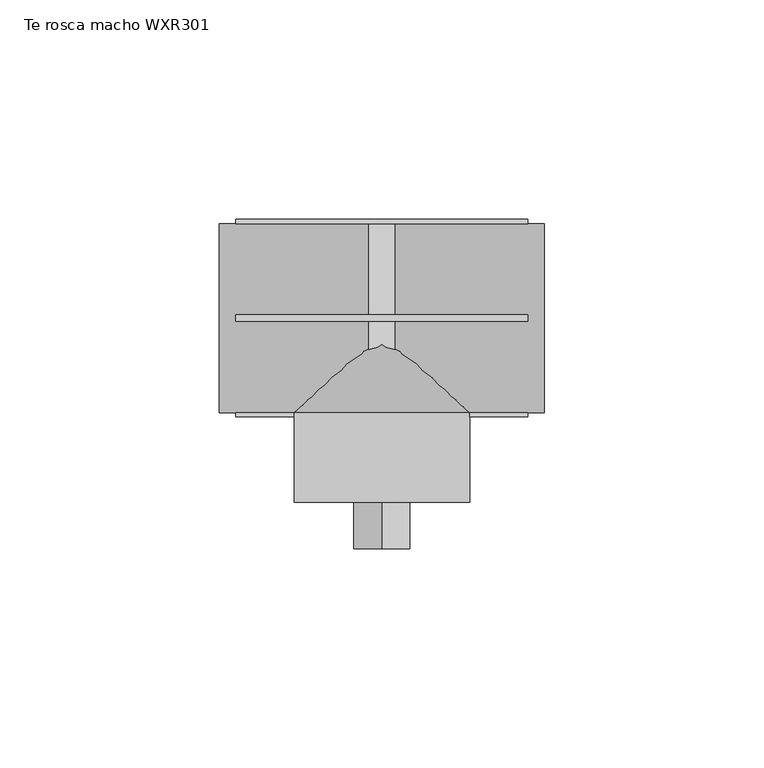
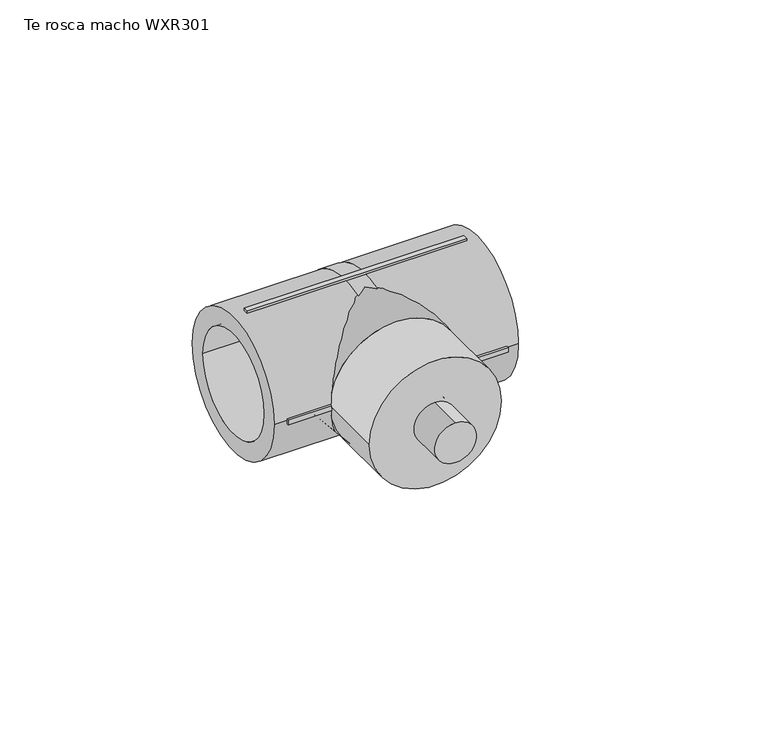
"""IFC4 building model written with IfcOpenShell, lengths in millimetres: pipe fitting geometry, EGB_VASEN_ PPR_Te rosca macho WXR301 : Te rosca macho WXR301."""

from ifc_helpers import new_model, si_unit, point, frame, origin, origin_2d, place, context, project, spatial, polyline, circle_curve, trimmed, segment, composite_curve, outline, extrude, source, transform, mapped, element, save
from ifc_brep_helpers import plane_surface, cylinder_surface, revolved_surface, advanced_brep


def te_rosca_macho_wxr301_1d7b4b41(model_context):
    return source(origin(), model_context, "Body", "SolidModel", [
        extrude(outline(composite_curve([segment(trimmed(circle_curve(origin_2d(), 6.35), [point((-6.35, 0.0))], [point((6.35, 0.0))], False, "CARTESIAN"), True, "CONTINUOUS"), segment(trimmed(circle_curve(origin_2d(), 6.35), [point((6.35, 0.0))], [point((-6.35, 0.0))], False, "CARTESIAN"), True, "CONTINUOUS")], self_intersect=False)), frame((0.0, -52.5, 0.0), z_axis=(0.0, 1.0, 0.0), x_axis=(0.0, 0.0, 1.0)), (0.0, 0.0, 1.0), 30.0),
        advanced_brep(
        [(2.96, -16.0, 0.0), (2.96, 16.0, 0.0), (-2.96, 16.0, 0.0), (-2.96, -16.0, 0.0), (-2.96, 21.5, 0.0), (2.96, 21.5, 0.0), (2.96, -21.5, 0.0), (-2.96, -21.5, 0.0), (37.0, -21.5, 0.0), (37.0, 21.5, 0.0), (37.0, -16.0, 0.0), (37.0, 16.0, 0.0), (-37.0, -21.5, 0.0), (-37.0, 21.5, 0.0), (-37.0, -16.0, 0.0), (-37.0, 16.0, 0.0)],
        [
            (0, 1, circle_curve(frame((2.96, 0.0, 0.0), z_axis=(1.0, 0.0, 0.0), x_axis=(0.0, 1.0, 0.0)), 16.0)),
            (1, 0, circle_curve(frame((2.96, 0.0, 0.0), z_axis=(1.0, 0.0, 0.0), x_axis=(0.0, 1.0, 0.0)), 16.0)),
            (2, 3, circle_curve(frame((-2.96, 0.0, 0.0), z_axis=(-1.0, 0.0, 0.0), x_axis=(0.0, 1.0, 0.0)), 16.0)),
            (3, 2, circle_curve(frame((-2.96, 0.0, 0.0), z_axis=(-1.0, 0.0, 0.0), x_axis=(0.0, 1.0, 0.0)), 16.0)),
            (4, 5),
            (5, 6, circle_curve(frame((2.96, 0.0, 0.0), z_axis=(-1.0, 0.0, 0.0), x_axis=(0.0, 0.0, -1.0)), 21.5)),
            (6, 7),
            (7, 4, circle_curve(frame((-2.96, 0.0, 0.0), z_axis=(1.0, 0.0, 0.0), x_axis=(0.0, 0.0, -1.0)), 21.5)),
            (4, 7, circle_curve(frame((-2.96, 0.0, 0.0), z_axis=(1.0, 0.0, 0.0), x_axis=(0.0, 0.0, 1.0)), 21.5)),
            (6, 5, circle_curve(frame((2.96, 0.0, 0.0), z_axis=(-1.0, 0.0, 0.0), x_axis=(0.0, 0.0, 1.0)), 21.5)),
            (8, 9, circle_curve(frame((37.0, 0.0, 0.0), z_axis=(1.0, 0.0, 0.0), x_axis=(0.0, 1.0, 0.0)), 21.5)),
            (9, 8, circle_curve(frame((37.0, 0.0, 0.0), z_axis=(1.0, 0.0, 0.0), x_axis=(0.0, 1.0, 0.0)), 21.5)),
            (10, 11, circle_curve(frame((37.0, 0.0, 0.0), z_axis=(-1.0, 0.0, 0.0), x_axis=(0.0, 1.0, 0.0)), 16.0)),
            (11, 10, circle_curve(frame((37.0, 0.0, 0.0), z_axis=(-1.0, 0.0, 0.0), x_axis=(0.0, 1.0, 0.0)), 16.0)),
            (9, 5),
            (6, 8),
            (11, 1),
            (0, 10),
            (12, 13, circle_curve(frame((-37.0, 0.0, 0.0), z_axis=(-1.0, 0.0, 0.0), x_axis=(0.0, 1.0, 0.0)), 21.5)),
            (13, 12, circle_curve(frame((-37.0, 0.0, 0.0), z_axis=(-1.0, 0.0, 0.0), x_axis=(0.0, 1.0, 0.0)), 21.5)),
            (14, 15, circle_curve(frame((-37.0, 0.0, 0.0), z_axis=(1.0, 0.0, 0.0), x_axis=(0.0, 1.0, 0.0)), 16.0)),
            (15, 14, circle_curve(frame((-37.0, 0.0, 0.0), z_axis=(1.0, 0.0, 0.0), x_axis=(0.0, 1.0, 0.0)), 16.0)),
            (12, 7),
            (4, 13),
            (14, 3),
            (2, 15),
        ],
        [
            plane_surface(frame((2.96, 0.0, 0.0), z_axis=(1.0, 0.0, 0.0), x_axis=(0.0, 0.0, -1.0))),
            plane_surface(frame((-2.96, 0.0, 0.0), z_axis=(-1.0, 0.0, 0.0), x_axis=(0.0, 0.0, -1.0))),
            cylinder_surface(frame((-2.96, 0.0, 0.0), z_axis=(1.0, 0.0, 0.0), x_axis=(0.0, 0.0, -1.0)), 21.5),
            cylinder_surface(frame((-2.96, 0.0, 0.0), z_axis=(1.0, 0.0, 0.0), x_axis=(0.0, 0.0, 1.0)), 21.5),
            plane_surface(frame((37.0, 0.0, 0.0), z_axis=(1.0, 0.0, 0.0), x_axis=(0.0, 0.0, 1.0))),
            cylinder_surface(frame((2.96, 0.0, 0.0), z_axis=(-1.0, 0.0, 0.0), x_axis=(0.0, 1.0, 0.0)), 21.5),
            revolved_surface(polyline([(37.0, 16.0, 0.0), (2.96, 16.0, 0.0)]), (2.96, 0.0, 0.0), (1.0, 0.0, 0.0)),
            plane_surface(frame((-37.0, 0.0, 0.0), z_axis=(-1.0, 0.0, 0.0), x_axis=(0.0, 0.0, 1.0))),
            cylinder_surface(frame((-37.0, 0.0, 0.0), z_axis=(-1.0, 0.0, 0.0), x_axis=(0.0, 1.0, 0.0)), 21.5),
            revolved_surface(polyline([(-2.960000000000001, 16.0, 0.0), (-37.0, 16.0, 0.0)]), (-37.0, 0.0, 0.0), (1.0, 0.0, 0.0)),
        ],
        [
            (0, [[1, 2]]),
            (1, [[3, 4]]),
            (2, [[5, 6, 7, 8]]),
            (3, [[-5, 9, -7, 10]]),
            (4, [[11, 12], [13, 14]]),
            (5, [[-12, 15, -10, 16]]),
            (5, [[-11, -16, -6, -15]]),
            (6, [[-14, 17, -1, 18]]),
            (6, [[-13, -18, -2, -17]]),
            (7, [[19, 20], [21, 22]]),
            (8, [[-19, 23, -9, 24]]),
            (8, [[-20, -24, -8, -23]]),
            (9, [[-21, 25, -3, 26]]),
            (9, [[-22, -26, -4, -25]]),
        ],
    ),
        extrude(outline(composite_curve([segment(trimmed(circle_curve(origin_2d(), 20.0), [point((0.0, 20.0))], [point((0.0, -20.0))], False, "CARTESIAN"), True, "CONTINUOUS"), segment(trimmed(circle_curve(origin_2d(), 20.0), [point((0.0, -20.0))], [point((0.0, 20.0))], False, "CARTESIAN"), True, "CONTINUOUS")], self_intersect=False), holes=[composite_curve([segment(trimmed(circle_curve(origin_2d(), 6.35), [point((0.0, 6.35))], [point((0.0, -6.35))], True, "CARTESIAN"), True, "CONTINUOUS"), segment(trimmed(circle_curve(origin_2d(), 6.35), [point((0.0, -6.35))], [point((0.0, 6.35))], True, "CARTESIAN"), True, "CONTINUOUS")], self_intersect=False)]), frame((0.0, -42.0, 0.0), z_axis=(0.0, 1.0, 0.0), x_axis=(0.0, 0.0, 1.0)), (0.0, 0.0, 1.0), 20.5),
        advanced_brep(
        [(21.5, 0.0, 0.0), (-21.5, 0.0, 0.0), (20.0, -21.5, 0.0), (-20.0, -21.5, 0.0)],
        [
            (0, 1, circle_curve(frame((0.0, 0.0, 0.0), z_axis=(0.0, 1.0, 0.0), x_axis=(1.0, 0.0, 0.0)), 21.5)),
            (1, 0, circle_curve(frame((0.0, 0.0, 0.0), z_axis=(0.0, 1.0, 0.0), x_axis=(-1.0, 0.0, 0.0)), 21.5)),
            (2, 3, circle_curve(frame((0.0, -21.5, 0.0), z_axis=(0.0, -1.0, 0.0), x_axis=(-1.0, 0.0, 0.0)), 20.0)),
            (3, 2, circle_curve(frame((0.0, -21.5, 0.0), z_axis=(0.0, -1.0, 0.0), x_axis=(1.0, 0.0, 0.0)), 20.0)),
            (3, 1),
            (0, 2),
        ],
        [
            plane_surface(frame((0.0, 0.0, 0.0), z_axis=(0.0, 1.0, 0.0), x_axis=(0.0, 0.0, -1.0))),
            plane_surface(frame((0.0, -21.5, 0.0), z_axis=(0.0, -1.0, 0.0), x_axis=(0.0, 0.0, -1.0))),
            revolved_surface(polyline([(-20.00000000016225, -21.5, 0.0), (-21.5, 0.0, 0.0)]), (0.0, -308.1666667, 0.0), (0.0, 1.0, 0.0)),
            revolved_surface(polyline([(20.00000000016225, -21.5, 0.0), (21.5, 0.0, 0.0)]), (0.0, -308.1666667, 0.0), (0.0, 1.0, 0.0)),
        ],
        [
            (0, [[1, 2]]),
            (1, [[3, 4]]),
            (2, [[-4, 5, -1, 6]]),
            (3, [[-3, -6, -2, -5]]),
        ],
    ),
        extrude(outline(polyline([(33.3, 0.75), (33.3, -0.75), (-33.3, -0.75), (-33.3, 0.75), (33.3, 0.75)])), frame((0.0, 0.0, 20.5), z_axis=(0.0, 0.0, 1.0), x_axis=(1.0, 0.0, 0.0)), (0.0, 0.0, 1.0), 2.0),
        extrude(outline(polyline([(33.3, 0.75), (33.3, -0.75), (-33.3, -0.75), (-33.3, 0.75), (33.3, 0.75)])), frame((0.0, 0.0, -22.5), z_axis=(0.0, 0.0, 1.0), x_axis=(1.0, 0.0, 0.0)), (0.0, 0.0, 1.0), 2.0),
        extrude(outline(polyline([(33.3, 22.5), (33.3, 20.5), (-33.3, 20.5), (-33.3, 22.5), (33.3, 22.5)])), frame((0.0, 0.0, -0.75), z_axis=(0.0, 0.0, 1.0), x_axis=(1.0, 0.0, 0.0)), (0.0, 0.0, 1.0), 1.5),
        extrude(outline(polyline([(33.3, -20.5), (33.3, -22.5), (-33.3, -22.5), (-33.3, -20.5), (33.3, -20.5)])), frame((0.0, 0.0, -0.75), z_axis=(0.0, 0.0, 1.0), x_axis=(1.0, 0.0, 0.0)), (0.0, 0.0, 1.0), 1.5),
    ])


if __name__ == "__main__":
    model = new_model("IFC4")
    model_context = context("Model", 3, world=origin())
    ifc_project = project(units=[si_unit("LENGTHUNIT", "METRE", prefix="MILLI")], contexts=[model_context])
    site = spatial("IfcSite", under=ifc_project)
    building = spatial("IfcBuilding", under=site)
    placement = place(None, origin())
    te_rosca_macho_wxr301_shape = te_rosca_macho_wxr301_1d7b4b41(model_context)
    element("IfcPipeFitting", 1, ObjectType="EGB_VASEN_ PPR_Te rosca macho WXR301 : Te rosca macho WXR301", at=placement, inside=building, context=model_context, shape_type="MappedRepresentation", body=[
        mapped(te_rosca_macho_wxr301_shape, transform((0.0, 0.0, 0.0), x_axis=(1.0, 0.0, 0.0), y_axis=(0.0, 1.0, 0.0), z_axis=(0.0, 0.0, 1.0))),
    ])
    save(model, "model.ifc")
